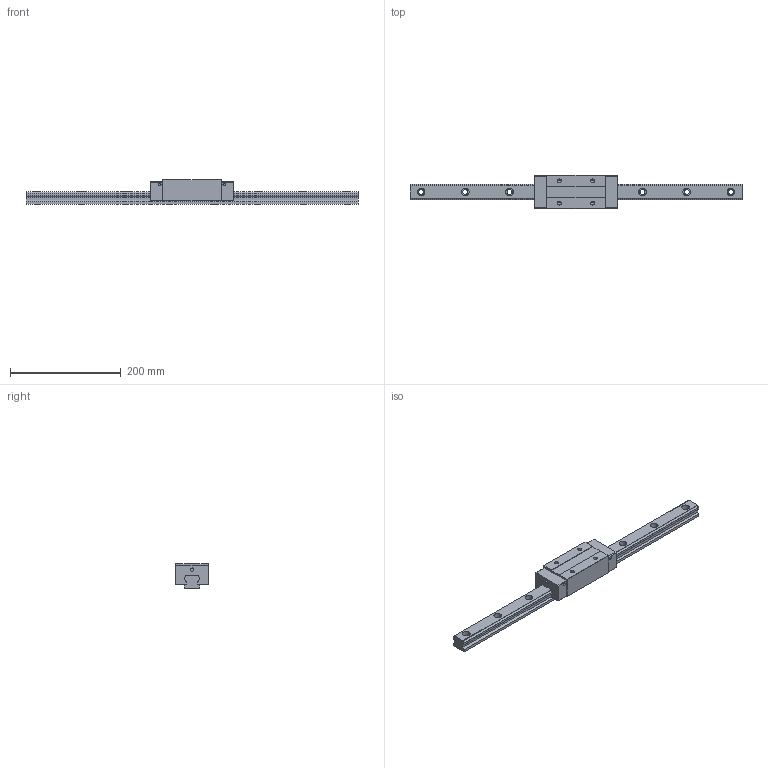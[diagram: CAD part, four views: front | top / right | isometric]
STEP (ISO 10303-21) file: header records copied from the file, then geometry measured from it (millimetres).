
FILE_DESCRIPTION (( 'STEP AP203' ), '1' );
FILE_NAME ('TRH30VE-DU.STEP', '2024-07-10T07:20:59', ( '' ), ( '' ), 'SwSTEP 2.0', 'SolidWorks 2022', '' );
FILE_SCHEMA (( 'CONFIG_CONTROL_DESIGN' ));
Length unit declared in the file: millimetre
Products named in the file (1): TRH30VE-DU
Bounding box: 600 x 60 x 45 mm (x, y, z)
Volume: 586722.4 mm3; surface area: 109410.7 mm2
Topology: 2 solids, 2 shells, 186 faces, 488 edges, 316 vertices
Faces by surface type: cylinder 88, plane 82, cone 16
Entity records: 5819 total; most frequent: DIRECTION 1038, CARTESIAN_POINT 983, ORIENTED_EDGE 960, EDGE_CURVE 480, AXIS2_PLACEMENT_3D 371, VERTEX_POINT 316, VECTOR 296, LINE 296
